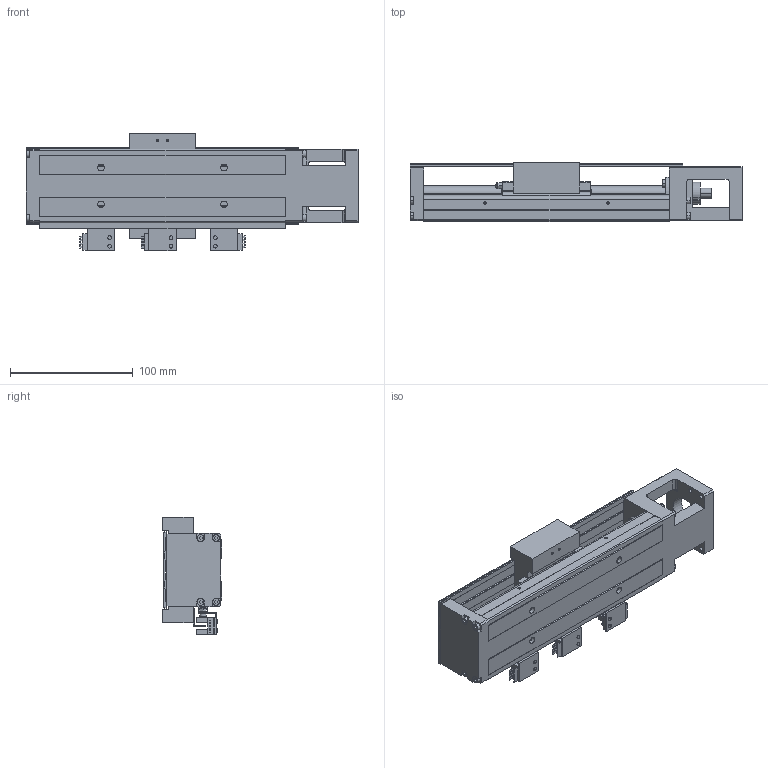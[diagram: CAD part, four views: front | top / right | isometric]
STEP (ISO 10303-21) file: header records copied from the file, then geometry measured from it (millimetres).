
FILE_DESCRIPTION (( 'STEP AP203' ), '1' );
FILE_NAME ('HKK60D5C-200A1-F0CS2.stp', '2021-11-30T01:28:10', ( '' ), ( '' ), 'SwSTEP 2.0', 'SolidWorks 2018', '' );
FILE_SCHEMA (( 'CONFIG_CONTROL_DESIGN' ));
Length unit declared in the file: millimetre
Products named in the file (1): HKK60D5C-200A1-F0CS2
Bounding box: 270 x 48 x 95.85 mm (x, y, z)
Volume: 436769.9 mm3; surface area: 153126.2 mm2
Topology: 6 solids, 16 shells, 1323 faces, 3355 edges, 2135 vertices
Faces by surface type: plane 837, cylinder 354, cone 98, torus 32, bspline 2
Entity records: 39588 total; most frequent: CARTESIAN_POINT 7848, ORIENTED_EDGE 6610, DIRECTION 6441, EDGE_CURVE 3305, VECTOR 2357, LINE 2357, VERTEX_POINT 2135, AXIS2_PLACEMENT_3D 2042
